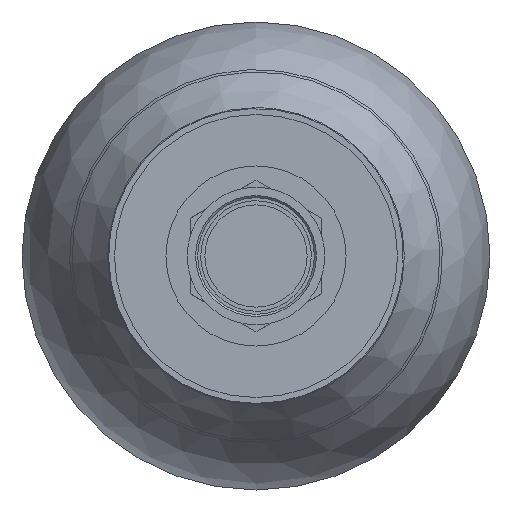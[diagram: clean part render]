
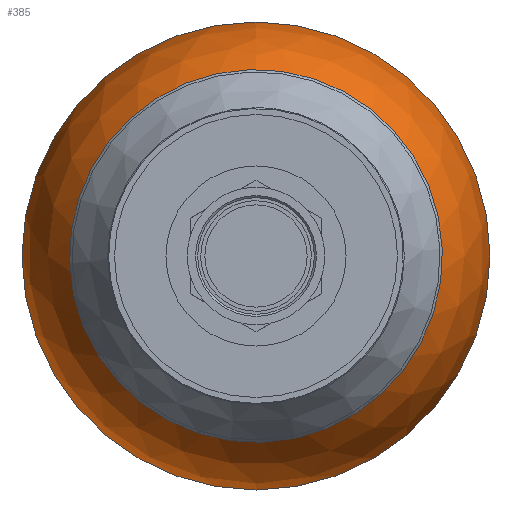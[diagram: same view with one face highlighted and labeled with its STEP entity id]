
A CAD part, front view. The second image highlights one B-rep face of the part: STEP entity #385.
In plain terms, the highlighted spherical face has radius 57.15 mm.
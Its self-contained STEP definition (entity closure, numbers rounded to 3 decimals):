
#275=CARTESIAN_POINT('',(-140.659,-50.8,0.));
#276=VERTEX_POINT('',#275);
#277=CARTESIAN_POINT('',(-140.659,6.35,0.0));
#278=DIRECTION('',(1.0,0.0,0.0));
#279=DIRECTION('',(0.0,1.0,0.0));
#280=AXIS2_PLACEMENT_3D('',#277,#278,#279);
#281=CIRCLE('',#280,57.15);
#282=EDGE_CURVE('',#276,#276,#281,.T.);
#359=CARTESIAN_POINT('',(-193.405,28.35,0.0));
#360=VERTEX_POINT('',#359);
#361=CARTESIAN_POINT('',(-193.405,6.35,0.0));
#362=DIRECTION('',(1.0,0.0,0.0));
#363=DIRECTION('',(0.0,1.0,0.0));
#364=AXIS2_PLACEMENT_3D('',#361,#362,#363);
#365=CIRCLE('',#364,22.);
#366=EDGE_CURVE('',#360,#360,#365,.T.);
#374=CARTESIAN_POINT('',(-140.659,6.35,0.0));
#375=DIRECTION('',(1.0,0.0,0.0));
#376=DIRECTION('',(0.0,-1.0,0.0));
#377=AXIS2_PLACEMENT_3D('',#374,#375,#376);
#378=SPHERICAL_SURFACE('',#377,57.15);
#379=ORIENTED_EDGE('',*,*,#282,.F.);
#380=EDGE_LOOP('',(#379));
#381=FACE_OUTER_BOUND('',#380,.T.);
#382=ORIENTED_EDGE('',*,*,#366,.T.);
#383=EDGE_LOOP('',(#382));
#384=FACE_BOUND('',#383,.T.);
#385=ADVANCED_FACE('',(#381,#384),#378,.T.);
